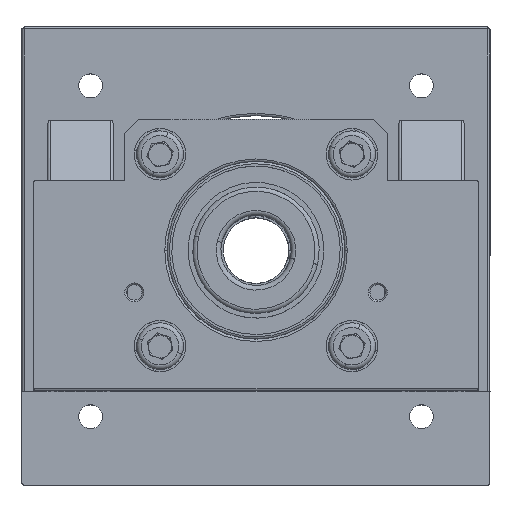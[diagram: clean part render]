
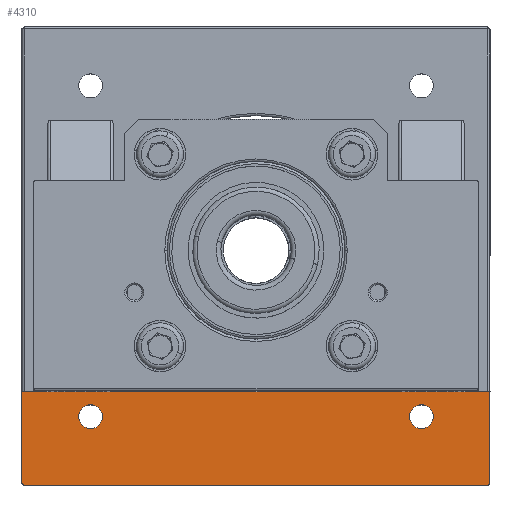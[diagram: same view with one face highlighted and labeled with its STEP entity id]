
A CAD part, top view. The second image highlights one B-rep face of the part: STEP entity #4310.
In plain terms, the highlighted planar face has unit normal (0, 0, 1).
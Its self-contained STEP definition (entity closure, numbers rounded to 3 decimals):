
#38 = ORIENTED_EDGE ( 'NONE', *, *, #281, .F. ) ;
#196 = EDGE_CURVE ( 'NONE', #406, #3007, #9053, .T. ) ;
#281 = EDGE_CURVE ( 'NONE', #8595, #8541, #8328, .T. ) ;
#406 = VERTEX_POINT ( 'NONE', #6919 ) ;
#549 = FACE_BOUND ( 'NONE', #6492, .T. ) ;
#554 = VERTEX_POINT ( 'NONE', #5453 ) ;
#620 = AXIS2_PLACEMENT_3D ( 'NONE', #2316, #1873, #1832 ) ;
#677 = CARTESIAN_POINT ( 'NONE',  ( -50., -30., -115. ) ) ;
#719 = DIRECTION ( 'NONE',  ( 1., 0., 0. ) ) ;
#885 = DIRECTION ( 'NONE',  ( 0., 0., 1. ) ) ;
#1195 = CARTESIAN_POINT ( 'NONE',  ( -50., -30., -115. ) ) ;
#1509 = CARTESIAN_POINT ( 'NONE',  ( -35.355, -35.355, -115. ) ) ;
#1645 = CIRCLE ( 'NONE', #6281, 0.5 ) ;
#1832 = DIRECTION ( 'NONE',  ( -1., 0., 0. ) ) ;
#1873 = DIRECTION ( 'NONE',  ( 0., 0., -1. ) ) ;
#1906 = CARTESIAN_POINT ( 'NONE',  ( 50., -30., -115. ) ) ;
#1964 = VERTEX_POINT ( 'NONE', #5319 ) ;
#1984 = VERTEX_POINT ( 'NONE', #4484 ) ;
#2020 = VERTEX_POINT ( 'NONE', #3086 ) ;
#2034 = CIRCLE ( 'NONE', #6161, 2.55 ) ;
#2234 = EDGE_CURVE ( 'NONE', #3993, #2020, #10643, .T. ) ;
#2316 = CARTESIAN_POINT ( 'NONE',  ( -50., -30., -115. ) ) ;
#2342 = ORIENTED_EDGE ( 'NONE', *, *, #7118, .F. ) ;
#2371 = DIRECTION ( 'NONE',  ( -1., 0., 0. ) ) ;
#2388 = EDGE_CURVE ( 'NONE', #1964, #7427, #9381, .T. ) ;
#2495 = EDGE_LOOP ( 'NONE', ( #8086, #10647 ) ) ;
#2637 = EDGE_LOOP ( 'NONE', ( #10302, #3264, #6425, #7562, #38, #8473 ) ) ;
#2676 = PLANE ( 'NONE',  #620 ) ;
#2873 = FACE_BOUND ( 'NONE', #2495, .T. ) ;
#3007 = VERTEX_POINT ( 'NONE', #6049 ) ;
#3070 = CARTESIAN_POINT ( 'NONE',  ( -50., -30., -115. ) ) ;
#3086 = CARTESIAN_POINT ( 'NONE',  ( 32.805, -35.355, -115. ) ) ;
#3211 = CARTESIAN_POINT ( 'NONE',  ( 49.5, -49.5, -115. ) ) ;
#3264 = ORIENTED_EDGE ( 'NONE', *, *, #10164, .T. ) ;
#3608 = CARTESIAN_POINT ( 'NONE',  ( -50., -50., -115. ) ) ;
#3878 = LINE ( 'NONE', #1195, #10066 ) ;
#3993 = VERTEX_POINT ( 'NONE', #10688 ) ;
#4244 = AXIS2_PLACEMENT_3D ( 'NONE', #4741, #4497, #4461 ) ;
#4310 = ADVANCED_FACE ( 'NONE', ( #7213, #2873, #549 ), #2676, .F. ) ;
#4415 = DIRECTION ( 'NONE',  ( 1., 0., 0. ) ) ;
#4461 = DIRECTION ( 'NONE',  ( -1., 0., 0. ) ) ;
#4484 = CARTESIAN_POINT ( 'NONE',  ( -49.5, -50., -115. ) ) ;
#4497 = DIRECTION ( 'NONE',  ( 0., 0., 1. ) ) ;
#4741 = CARTESIAN_POINT ( 'NONE',  ( -35.355, -35.355, -115. ) ) ;
#4807 = AXIS2_PLACEMENT_3D ( 'NONE', #5900, #885, #6731 ) ;
#5224 = VECTOR ( 'NONE', #4415, 1000. ) ;
#5319 = CARTESIAN_POINT ( 'NONE',  ( -32.805, -35.355, -115. ) ) ;
#5453 = CARTESIAN_POINT ( 'NONE',  ( -50., -49.5, -115. ) ) ;
#5536 = AXIS2_PLACEMENT_3D ( 'NONE', #3211, #7519, #7737 ) ;
#5733 = EDGE_CURVE ( 'NONE', #554, #1984, #1645, .T. ) ;
#5900 = CARTESIAN_POINT ( 'NONE',  ( 35.355, -35.355, -115. ) ) ;
#6049 = CARTESIAN_POINT ( 'NONE',  ( 50., -49.5, -115. ) ) ;
#6161 = AXIS2_PLACEMENT_3D ( 'NONE', #1509, #7286, #2371 ) ;
#6252 = CIRCLE ( 'NONE', #4807, 2.55 ) ;
#6281 = AXIS2_PLACEMENT_3D ( 'NONE', #7244, #7180, #7015 ) ;
#6425 = ORIENTED_EDGE ( 'NONE', *, *, #196, .T. ) ;
#6492 = EDGE_LOOP ( 'NONE', ( #2342, #7799 ) ) ;
#6731 = DIRECTION ( 'NONE',  ( -1., 0., 0. ) ) ;
#6919 = CARTESIAN_POINT ( 'NONE',  ( 49.5, -50., -115. ) ) ;
#6969 = DIRECTION ( 'NONE',  ( 0., 1., 0. ) ) ;
#7015 = DIRECTION ( 'NONE',  ( -1., 0., 0. ) ) ;
#7118 = EDGE_CURVE ( 'NONE', #7427, #1964, #2034, .T. ) ;
#7139 = VECTOR ( 'NONE', #9269, 1000. ) ;
#7180 = DIRECTION ( 'NONE',  ( 0., 0., 1. ) ) ;
#7213 = FACE_OUTER_BOUND ( 'NONE', #2637, .T. ) ;
#7244 = CARTESIAN_POINT ( 'NONE',  ( -49.5, -49.5, -115. ) ) ;
#7286 = DIRECTION ( 'NONE',  ( 0., 0., 1. ) ) ;
#7383 = LINE ( 'NONE', #1906, #7139 ) ;
#7403 = EDGE_CURVE ( 'NONE', #554, #8595, #3878, .T. ) ;
#7427 = VERTEX_POINT ( 'NONE', #10258 ) ;
#7519 = DIRECTION ( 'NONE',  ( 0., 0., 1. ) ) ;
#7562 = ORIENTED_EDGE ( 'NONE', *, *, #9687, .T. ) ;
#7737 = DIRECTION ( 'NONE',  ( -1., 0., 0. ) ) ;
#7799 = ORIENTED_EDGE ( 'NONE', *, *, #2388, .F. ) ;
#8056 = VECTOR ( 'NONE', #719, 1000. ) ;
#8086 = ORIENTED_EDGE ( 'NONE', *, *, #9573, .F. ) ;
#8328 = LINE ( 'NONE', #677, #8056 ) ;
#8473 = ORIENTED_EDGE ( 'NONE', *, *, #7403, .F. ) ;
#8541 = VERTEX_POINT ( 'NONE', #8662 ) ;
#8595 = VERTEX_POINT ( 'NONE', #3070 ) ;
#8662 = CARTESIAN_POINT ( 'NONE',  ( 50., -30., -115. ) ) ;
#8786 = AXIS2_PLACEMENT_3D ( 'NONE', #10621, #10205, #10096 ) ;
#9053 = CIRCLE ( 'NONE', #5536, 0.5 ) ;
#9252 = LINE ( 'NONE', #3608, #5224 ) ;
#9269 = DIRECTION ( 'NONE',  ( 0., 1., 0. ) ) ;
#9381 = CIRCLE ( 'NONE', #4244, 2.55 ) ;
#9573 = EDGE_CURVE ( 'NONE', #2020, #3993, #6252, .T. ) ;
#9687 = EDGE_CURVE ( 'NONE', #3007, #8541, #7383, .T. ) ;
#10066 = VECTOR ( 'NONE', #6969, 1000. ) ;
#10096 = DIRECTION ( 'NONE',  ( -1., 0., 0. ) ) ;
#10164 = EDGE_CURVE ( 'NONE', #1984, #406, #9252, .T. ) ;
#10205 = DIRECTION ( 'NONE',  ( 0., 0., 1. ) ) ;
#10258 = CARTESIAN_POINT ( 'NONE',  ( -37.905, -35.355, -115. ) ) ;
#10302 = ORIENTED_EDGE ( 'NONE', *, *, #5733, .T. ) ;
#10621 = CARTESIAN_POINT ( 'NONE',  ( 35.355, -35.355, -115. ) ) ;
#10643 = CIRCLE ( 'NONE', #8786, 2.55 ) ;
#10647 = ORIENTED_EDGE ( 'NONE', *, *, #2234, .F. ) ;
#10688 = CARTESIAN_POINT ( 'NONE',  ( 37.905, -35.355, -115. ) ) ;
